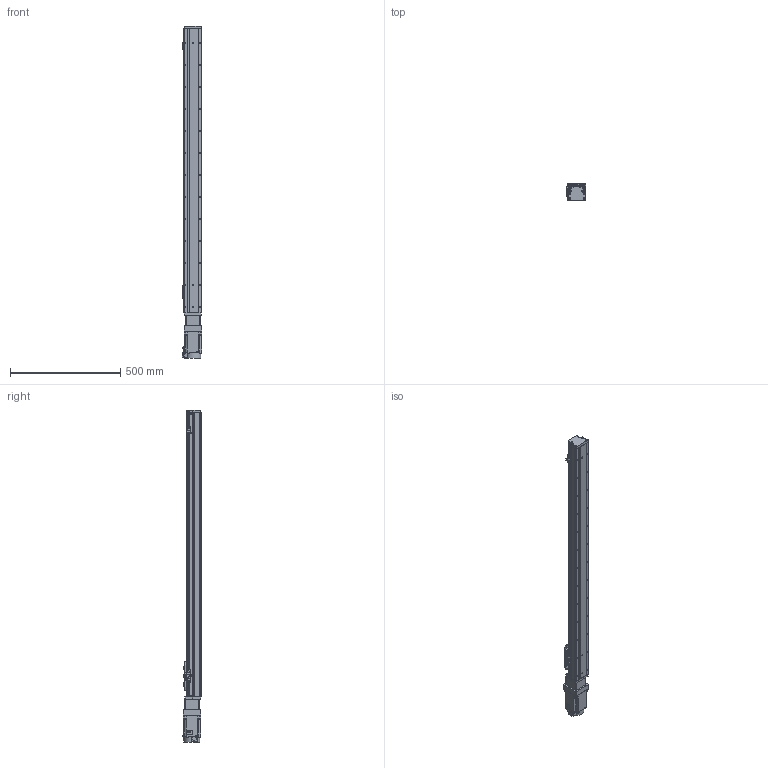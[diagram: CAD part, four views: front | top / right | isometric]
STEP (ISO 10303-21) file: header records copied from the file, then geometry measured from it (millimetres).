
FILE_DESCRIPTION (( 'STEP AP203' ), '1' );
FILE_NAME ('GTH8-1100-BC-M75-C4.step', '2023-02-14T02:18:24', ( '微软用户' ), ( '微软中国' ), 'SwSTEP 2.0', 'SolidWorks 2020', '' );
FILE_SCHEMA (( 'CONFIG_CONTROL_DESIGN' ));
Length unit declared in the file: millimetre
Products named in the file (19): GBT 70.3-M3℅6; GBT96.1-2002 3×0.8; GTH80-022; BTH-M3X5X6; GTH80-001_1100; GBT 70.1-M3℅6; CTHA86-006-1_CTHA86-006-4; GTH80-003; GBT 70.1-M4×16; CTHA86-013; GTH80-004; GTH80-028; CTHA86-027; GTH80-006; GTH50-024; hg-kn73j_-s100; GTH80-013; GTH50-023; GTH8-1100-BC-M75-C4
Assembly tree (60 placements, depth 2):
  GTH8-1100-BC-M75-C4
    GTH80-001_1100
    GTH80-003
    GTH80-004
    GTH80-006
    GTH80-013
    GBT 70.3-M3℅6  x6
    GTH80-022
    GBT 70.1-M3℅6  x14
    GBT 70.1-M4×16  x8
    GTH80-028  x2
    GTH50-024  x3
    GTH50-023  x3
    GBT96.1-2002 3×0.8  x6
    BTH-M3X5X6  x8
    CTHA86-006-1_CTHA86-006-4
    CTHA86-013
    CTHA86-027
    hg-kn73j_-s100
Bounding box: 89.8 x 81.72 x 1507.2 mm (x, y, z)
Volume: 6809439.1 mm3; surface area: 644195.2 mm2
Topology: 62 solids, 62 shells, 2277 faces, 5258 edges, 3208 vertices
Faces by surface type: plane 1185, cylinder 635, cone 285, torus 162, sphere 8, bspline 2
Entity records: 40377 total; most frequent: DIRECTION 6671, CARTESIAN_POINT 6650, ORIENTED_EDGE 6106, EDGE_CURVE 3053, AXIS2_PLACEMENT_3D 2347, LINE 1977, VECTOR 1977, VERTEX_POINT 1921
